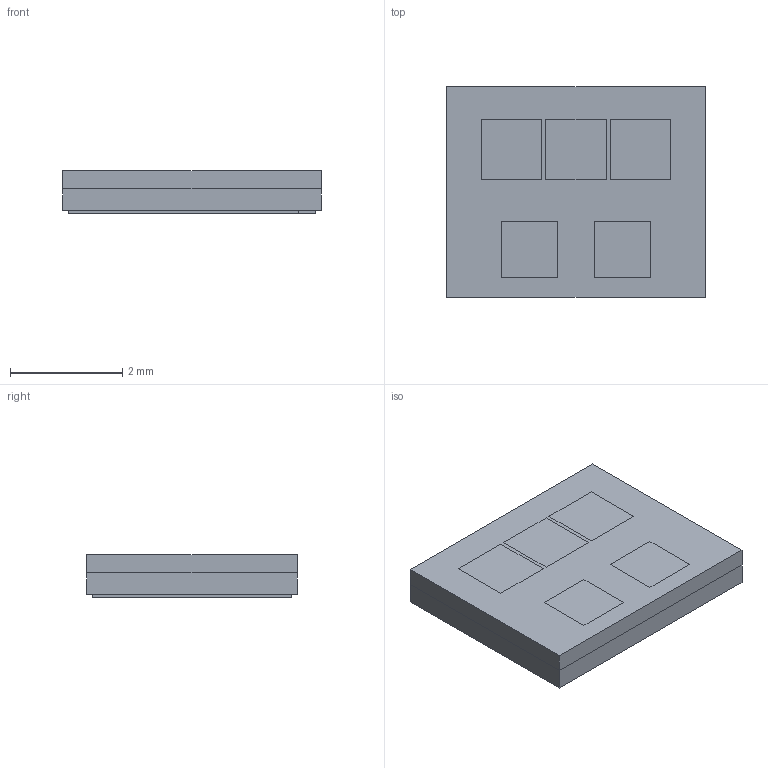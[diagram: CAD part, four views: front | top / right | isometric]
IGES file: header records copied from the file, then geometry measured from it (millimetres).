
Start section: SolidWorks IGES file using analytic representation for surfaces
Global section: file name: C:\Users\user\Desktop\XYY\1-车灯产品3D图汇总\大功率系列\ATL系列\ATL3\光学模型\ATL3.IGS; native system: SolidWorks 2022; preprocessor: SolidWorks 2022; author: user; date: 250427.152924; units: millimetre
Bounding box: 4.6 x 3.75 x 0.76 mm (x, y, z)
Surface area: 150.1 mm2 (no closed solid volume)
Topology: 0 solids, 0 shells, 167 faces, 1299 edges, 1728 vertices
Faces by surface type: bspline 165, revolution 2
